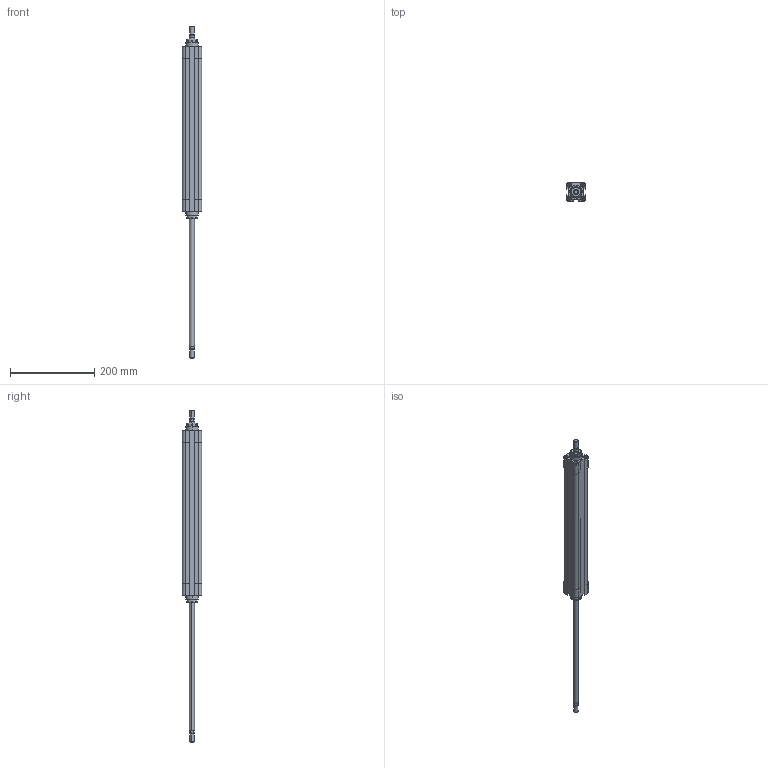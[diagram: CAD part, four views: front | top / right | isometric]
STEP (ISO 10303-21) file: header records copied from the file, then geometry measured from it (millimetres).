
FILE_DESCRIPTION((''),'2;1');
FILE_NAME('F:\Lib-3d\1380\CIL\1380_32_0300_02.stp','2004-01-07T15:59:57',('maffial1'),(''),'Autodesk Inventor 8','Autodesk Inventor 8','');
FILE_SCHEMA(('AUTOMOTIVE_DESIGN { 1 0 10303 214 1 1 1 1 }'));
Length unit declared in the file: millimetre
Products named in the file (3): 1380_32_0300_02; CPP04_32_300; CPP03_32_300
Assembly tree (2 placements, depth 2):
  1380_32_0300_02
    CPP04_32_300
    CPP03_32_300
Bounding box: 46 x 46 x 790 mm (x, y, z)
Volume: 788126 mm3; surface area: 144917.1 mm2
Topology: 2 solids, 2 shells, 236 faces, 564 edges, 356 vertices
Faces by surface type: plane 80, cylinder 66, bspline 62, cone 24, torus 4
Entity records: 7513 total; most frequent: CARTESIAN_POINT 2031, DIRECTION 1154, ORIENTED_EDGE 1096, EDGE_CURVE 548, AXIS2_PLACEMENT_3D 427, VERTEX_POINT 356, VECTOR 300, LINE 300
